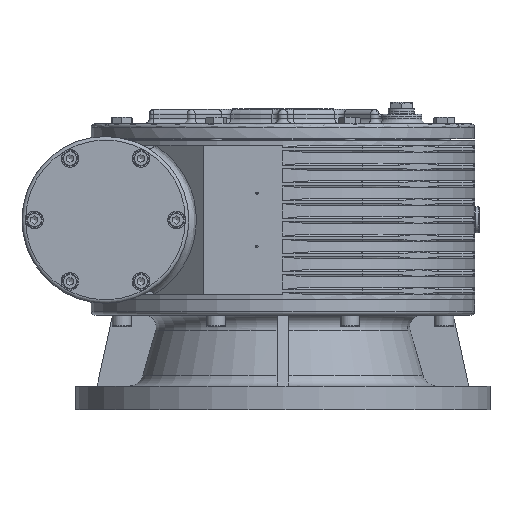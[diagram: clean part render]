
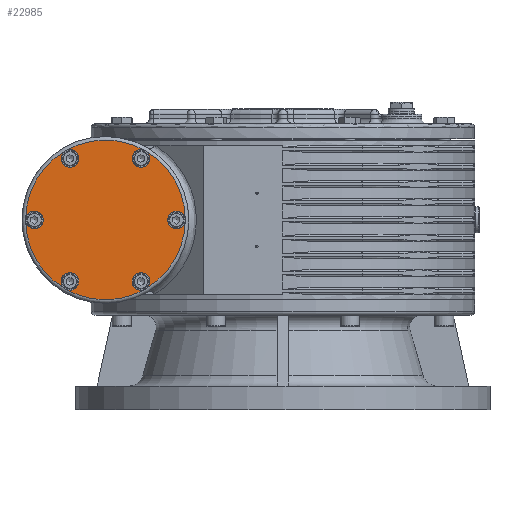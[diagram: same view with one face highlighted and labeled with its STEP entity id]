
A CAD part, left-side view. The second image highlights one B-rep face of the part: STEP entity #22985.
In plain terms, the highlighted planar face has unit normal (-1, 0, 0).
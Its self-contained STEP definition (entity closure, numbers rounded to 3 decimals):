
#22888=CARTESIAN_POINT('',(0.0,67.5,0.0));
#22889=VERTEX_POINT('',#22888);
#22890=CARTESIAN_POINT('',(0.0,0.0,0.0));
#22891=DIRECTION('',(1.0,0.0,0.0));
#22892=DIRECTION('',(0.0,-1.0,0.0));
#22893=AXIS2_PLACEMENT_3D('',#22890,#22891,#22892);
#22894=CIRCLE('',#22893,67.5);
#22895=EDGE_CURVE('',#22889,#22889,#22894,.T.);
#22911=CARTESIAN_POINT('',(0.0,35.25,0.0));
#22912=DIRECTION('',(-1.0,0.0,0.0));
#22913=DIRECTION('',(0.0,0.0,1.0));
#22914=AXIS2_PLACEMENT_3D('',#22911,#22912,#22913);
#22915=PLANE('',#22914);
#22916=ORIENTED_EDGE('',*,*,#22895,.F.);
#22917=EDGE_LOOP('',(#22916));
#22918=FACE_OUTER_BOUND('',#22917,.T.);
#22919=CARTESIAN_POINT('',(0.0,60.0,4.25));
#22920=VERTEX_POINT('',#22919);
#22921=CARTESIAN_POINT('',(0.0,60.0,0.0));
#22922=DIRECTION('',(1.0,0.0,0.0));
#22923=DIRECTION('',(0.0,0.0,-1.0));
#22924=AXIS2_PLACEMENT_3D('',#22921,#22922,#22923);
#22925=CIRCLE('',#22924,4.25);
#22926=EDGE_CURVE('',#22920,#22920,#22925,.T.);
#22927=ORIENTED_EDGE('',*,*,#22926,.T.);
#22928=EDGE_LOOP('',(#22927));
#22929=FACE_BOUND('',#22928,.T.);
#22930=CARTESIAN_POINT('',(0.,26.319,54.087));
#22931=VERTEX_POINT('',#22930);
#22932=CARTESIAN_POINT('',(0.,30.,51.962));
#22933=DIRECTION('',(1.0,0.,0.));
#22934=DIRECTION('',(0.,0.866,-0.5));
#22935=AXIS2_PLACEMENT_3D('',#22932,#22933,#22934);
#22936=CIRCLE('',#22935,4.25);
#22937=EDGE_CURVE('',#22931,#22931,#22936,.T.);
#22938=ORIENTED_EDGE('',*,*,#22937,.T.);
#22939=EDGE_LOOP('',(#22938));
#22940=FACE_BOUND('',#22939,.T.);
#22941=CARTESIAN_POINT('',(0.,-33.681,49.837));
#22942=VERTEX_POINT('',#22941);
#22943=CARTESIAN_POINT('',(0.,-30.,51.962));
#22944=DIRECTION('',(1.0,0.,0.));
#22945=DIRECTION('',(0.,0.866,0.5));
#22946=AXIS2_PLACEMENT_3D('',#22943,#22944,#22945);
#22947=CIRCLE('',#22946,4.25);
#22948=EDGE_CURVE('',#22942,#22942,#22947,.T.);
#22949=ORIENTED_EDGE('',*,*,#22948,.T.);
#22950=EDGE_LOOP('',(#22949));
#22951=FACE_BOUND('',#22950,.T.);
#22952=CARTESIAN_POINT('',(0.,-60.,-4.25));
#22953=VERTEX_POINT('',#22952);
#22954=CARTESIAN_POINT('',(0.,-60.,0.));
#22955=DIRECTION('',(1.0,0.0,0.0));
#22956=DIRECTION('',(0.0,0.0,1.0));
#22957=AXIS2_PLACEMENT_3D('',#22954,#22955,#22956);
#22958=CIRCLE('',#22957,4.25);
#22959=EDGE_CURVE('',#22953,#22953,#22958,.T.);
#22960=ORIENTED_EDGE('',*,*,#22959,.T.);
#22961=EDGE_LOOP('',(#22960));
#22962=FACE_BOUND('',#22961,.T.);
#22963=CARTESIAN_POINT('',(0.,-26.319,-54.087));
#22964=VERTEX_POINT('',#22963);
#22965=CARTESIAN_POINT('',(0.,-30.,-51.962));
#22966=DIRECTION('',(1.0,0.,0.));
#22967=DIRECTION('',(0.,-0.866,0.5));
#22968=AXIS2_PLACEMENT_3D('',#22965,#22966,#22967);
#22969=CIRCLE('',#22968,4.25);
#22970=EDGE_CURVE('',#22964,#22964,#22969,.T.);
#22971=ORIENTED_EDGE('',*,*,#22970,.T.);
#22972=EDGE_LOOP('',(#22971));
#22973=FACE_BOUND('',#22972,.T.);
#22974=CARTESIAN_POINT('',(0.,33.681,-49.837));
#22975=VERTEX_POINT('',#22974);
#22976=CARTESIAN_POINT('',(0.,30.,-51.962));
#22977=DIRECTION('',(1.0,0.,0.));
#22978=DIRECTION('',(0.,-0.866,-0.5));
#22979=AXIS2_PLACEMENT_3D('',#22976,#22977,#22978);
#22980=CIRCLE('',#22979,4.25);
#22981=EDGE_CURVE('',#22975,#22975,#22980,.T.);
#22982=ORIENTED_EDGE('',*,*,#22981,.T.);
#22983=EDGE_LOOP('',(#22982));
#22984=FACE_BOUND('',#22983,.T.);
#22985=ADVANCED_FACE('',(#22918,#22929,#22940,#22951,#22962,#22973,#22984),#22915,.T.);
